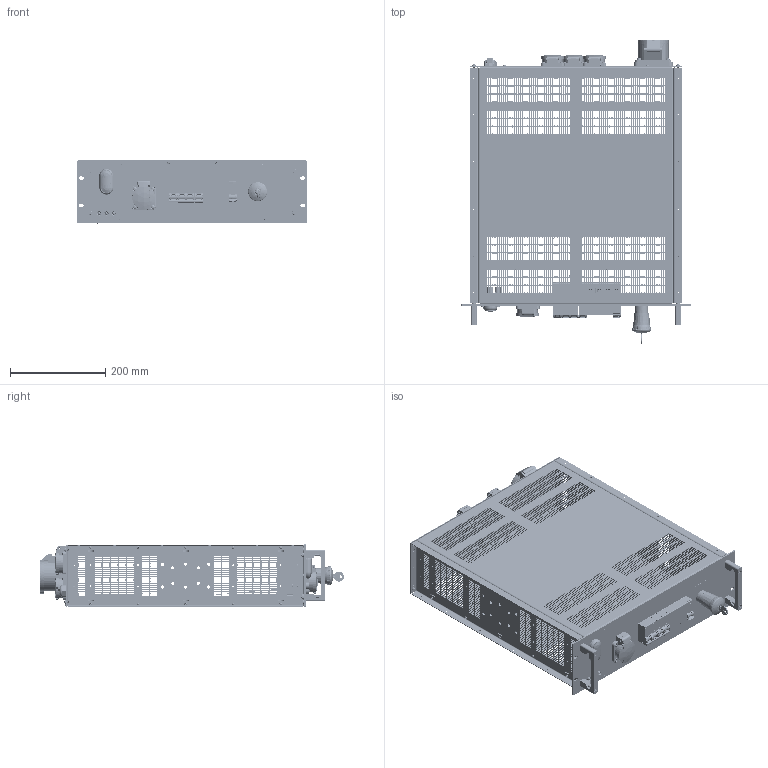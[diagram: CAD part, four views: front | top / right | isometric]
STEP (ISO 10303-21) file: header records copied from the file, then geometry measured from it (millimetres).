
FILE_DESCRIPTION(('STEP AP214'),'1');
FILE_NAME('SE_M13_19Z_3HE_3PH16_1XSCH10_3XSCH16_1XCECON16_3D_01.step','2020-04-03T05:43:38',(' '),(' '),'Spatial InterOp 3D',' ',' ');
FILE_SCHEMA(('AUTOMOTIVE_DESIGN { 1 0 10303 214 1 1 1 1 }'));
Length unit declared in the file: millimetre
Products named in the file (16): 22_DECKEL_3D_03; 23_ST_3HE_3D_05; DIN 965-A; JIS B1111-PNH-Z; DIN 7985-A; 453_SE_3PH_FI_FP_3D_mit_Einbauten_3D_03; *U473; AutoCreatedBlock_1076; 454_SE_3PH_FI_RW_3D_mit_Einbauten_03; *U466; *U467; *U468; *U469; AutoCreatedBlock_1080
Assembly tree (70 placements, depth 3):
  (unnamed)
    22_DECKEL_3D_03  x2
    23_ST_3HE_3D_05  x2
    DIN 965-A  x8
    JIS B1111-PNH-Z  x20
    DIN 7985-A  x8
    453_SE_3PH_FI_FP_3D_mit_Einbauten_3D_03
      *U473  x4
      AutoCreatedBlock_1076
    454_SE_3PH_FI_RW_3D_mit_Einbauten_03
      *U466  x12
      *U467
      *U468  x2
      *U469  x3
      AutoCreatedBlock_1080
    DIN 7985-A  x4
Bounding box: 482.6 x 639 x 133.74 mm (x, y, z)
Volume: 2237095 mm3; surface area: 1695882.4 mm2
Topology: 180 solids, 213 shells, 25620 faces, 69137 edges, 44250 vertices
Faces by surface type: plane 11341, cylinder 7968, cone 5581, torus 350, sphere 226, bspline 146, extrusion 8
Entity records: 679199 total; most frequent: CARTESIAN_POINT 114872, DIRECTION 81214, ORIENTED_EDGE 80246, EDGE_CURVE 40183, AXIS2_PLACEMENT_3D 27643, STYLED_ITEM 26389, PRESENTATION_STYLE_ASSIGNMENT 26389, COLOUR_RGB 26389
